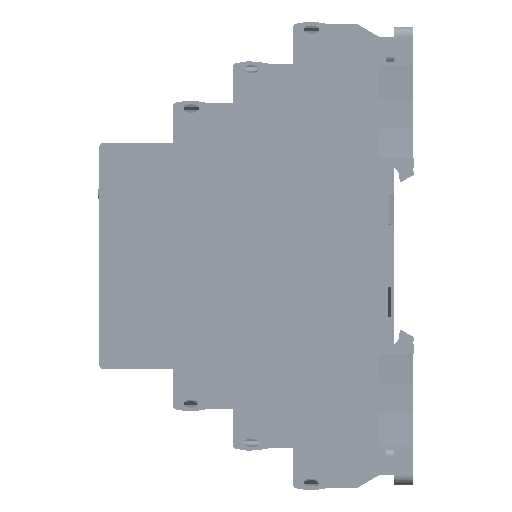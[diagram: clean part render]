
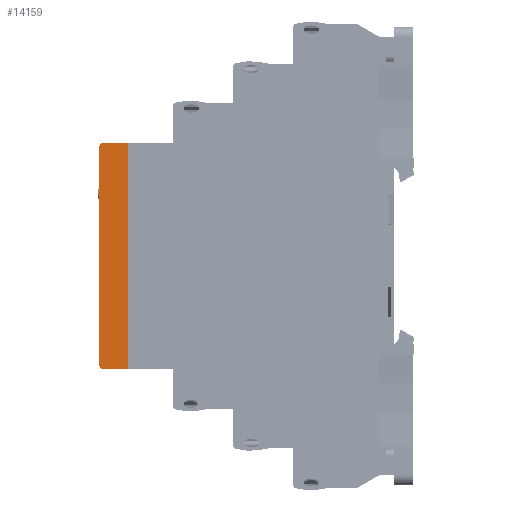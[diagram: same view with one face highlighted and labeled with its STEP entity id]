
A CAD part, left-side view. The second image highlights one B-rep face of the part: STEP entity #14159.
In plain terms, the highlighted planar face has unit normal (-1, 0, 0).
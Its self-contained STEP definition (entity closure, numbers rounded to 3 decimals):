
#14159=ADVANCED_FACE('',(#119929),#119931,.T.);
#119929=FACE_BOUND('',#119930,.T.);
#119930=EDGE_LOOP('',(#196969,#196970,#196971,#196972,#196973,#196974));
#119931=PLANE('',#119932);
#119932=AXIS2_PLACEMENT_3D('',#119933,#119934,#119935);
#119933=CARTESIAN_POINT('',(-11.25,-22.6,1.5));
#119934=DIRECTION('',(-1.,0.,0.));
#119935=DIRECTION('',(0.,0.,1.));
#196969=ORIENTED_EDGE('',*,*,#270414,.F.);
#196970=ORIENTED_EDGE('',*,*,#270399,.F.);
#196971=ORIENTED_EDGE('',*,*,#270422,.F.);
#196972=ORIENTED_EDGE('',*,*,#270423,.T.);
#196973=ORIENTED_EDGE('',*,*,#270424,.T.);
#196974=ORIENTED_EDGE('',*,*,#270425,.T.);
#270399=EDGE_CURVE('',#305269,#305264,#305271,.F.);
#270414=EDGE_CURVE('',#305264,#305300,#305301,.F.);
#270422=EDGE_CURVE('',#305312,#305269,#305314,.F.);
#270423=EDGE_CURVE('',#305312,#305315,#305316,.F.);
#270424=EDGE_CURVE('',#305315,#305317,#305318,.T.);
#270425=EDGE_CURVE('',#305317,#305300,#305319,.T.);
#305264=VERTEX_POINT('',#378048);
#305269=VERTEX_POINT('',#378057);
#305271=LINE('',#378061,#378062);
#305300=VERTEX_POINT('',#378122);
#305301=CIRCLE('',#378123,1.);
#305312=VERTEX_POINT('',#378151);
#305314=CIRCLE('',#378155,1.);
#305315=VERTEX_POINT('',#378159);
#305316=LINE('',#378160,#378161);
#305317=VERTEX_POINT('',#378163);
#305318=LINE('',#378164,#378165);
#305319=LINE('',#378167,#378168);
#378048=CARTESIAN_POINT('',(-11.25,21.6,0.));
#378057=CARTESIAN_POINT('',(-11.25,-21.6,0.));
#378061=CARTESIAN_POINT('',(-11.25,21.6,0.));
#378062=VECTOR('',#378063,1.);
#378063=DIRECTION('',(0.,-1.,0.));
#378122=CARTESIAN_POINT('',(-11.25,22.6,1.));
#378123=AXIS2_PLACEMENT_3D('',#378124,#378125,#378126);
#378124=CARTESIAN_POINT('',(-11.25,21.6,1.));
#378125=DIRECTION('',(-1.,0.,0.));
#378126=DIRECTION('',(0.,1.,0.));
#378151=CARTESIAN_POINT('',(-11.25,-22.6,1.));
#378155=AXIS2_PLACEMENT_3D('',#378156,#378157,#378158);
#378156=CARTESIAN_POINT('',(-11.25,-21.6,1.));
#378157=DIRECTION('',(-1.,0.,0.));
#378158=DIRECTION('',(0.,0.,-1.));
#378159=CARTESIAN_POINT('',(-11.25,-22.6,5.75));
#378160=CARTESIAN_POINT('',(-11.25,-22.6,5.75));
#378161=VECTOR('',#378162,1.);
#378162=DIRECTION('',(0.,0.,-1.));
#378163=CARTESIAN_POINT('',(-11.25,22.6,5.75));
#378164=CARTESIAN_POINT('',(-11.25,-22.6,5.75));
#378165=VECTOR('',#378166,1.);
#378166=DIRECTION('',(0.,1.,0.));
#378167=CARTESIAN_POINT('',(-11.25,22.6,5.75));
#378168=VECTOR('',#378169,1.);
#378169=DIRECTION('',(0.,0.,-1.));
